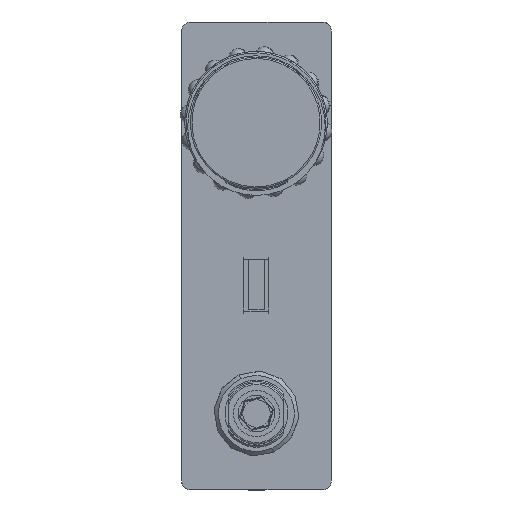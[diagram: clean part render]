
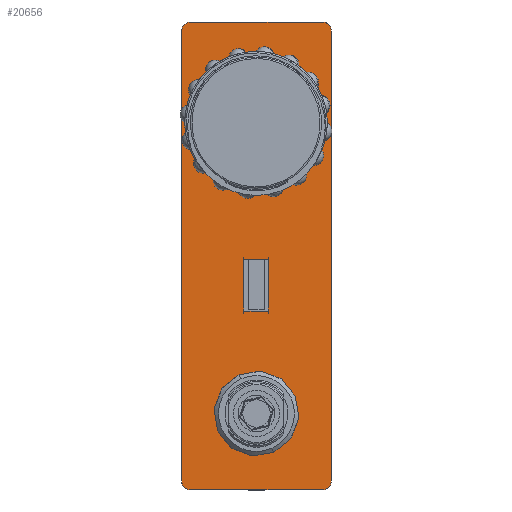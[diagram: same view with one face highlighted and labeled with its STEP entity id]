
A CAD part, front view. The second image highlights one B-rep face of the part: STEP entity #20656.
In plain terms, the highlighted planar face has unit normal (0, -1, 0).
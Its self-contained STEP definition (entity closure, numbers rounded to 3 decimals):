
#8502 = CARTESIAN_POINT ( 'NONE',  ( -42.3, -2., -22.5 ) ) ;
#8616 = CARTESIAN_POINT ( 'NONE',  ( -42.3, -2., 22.5 ) ) ;
#8617 = DIRECTION ( 'NONE',  ( 0., 0., -1. ) ) ;
#8618 = DIRECTION ( 'NONE',  ( 0., -1., 0. ) ) ;
#8619 = CARTESIAN_POINT ( 'NONE',  ( -42.3, -2., 0. ) ) ;
#8620 = AXIS2_PLACEMENT_3D ( 'NONE', #8619, #8618, #8617 ) ;
#8621 = CIRCLE ( 'NONE', #8620, 22.5 ) ;
#8746 = CARTESIAN_POINT ( 'NONE',  ( 51.5, -2., 11. ) ) ;
#8747 = DIRECTION ( 'NONE',  ( 0., 0., -1. ) ) ;
#8748 = DIRECTION ( 'NONE',  ( 0., -1., 0. ) ) ;
#8749 = CARTESIAN_POINT ( 'NONE',  ( 51.5, -2., 0. ) ) ;
#8750 = AXIS2_PLACEMENT_3D ( 'NONE', #8749, #8748, #8747 ) ;
#8751 = CIRCLE ( 'NONE', #8750, 11. ) ;
#8752 = CARTESIAN_POINT ( 'NONE',  ( 51.5, -2., -11. ) ) ;
#8841 = DIRECTION ( 'NONE',  ( 0., 0., -1. ) ) ;
#8842 = DIRECTION ( 'NONE',  ( 0., -1., 0. ) ) ;
#8843 = AXIS2_PLACEMENT_3D ( 'NONE', #8849, #8842, #8841 ) ;
#8844 = CIRCLE ( 'NONE', #8843, 11. ) ;
#8849 = CARTESIAN_POINT ( 'NONE',  ( 51.5, -2., 0. ) ) ;
#9044 = CARTESIAN_POINT ( 'NONE',  ( 17.5, -2., 2.5 ) ) ;
#9045 = CARTESIAN_POINT ( 'NONE',  ( 17.5, -2., -2.5 ) ) ;
#9046 = DIRECTION ( 'NONE',  ( 0., 0., 1. ) ) ;
#9047 = VECTOR ( 'NONE', #9046, 1000. ) ;
#9048 = CARTESIAN_POINT ( 'NONE',  ( 17.5, -2., -21.5 ) ) ;
#9049 = LINE ( 'NONE', #9048, #9047 ) ;
#9050 = DIRECTION ( 'NONE',  ( 0., 0., -1. ) ) ;
#9051 = DIRECTION ( 'NONE',  ( 0., -1., 0. ) ) ;
#9052 = AXIS2_PLACEMENT_3D ( 'NONE', #9053, #9051, #9050 ) ;
#9053 = CARTESIAN_POINT ( 'NONE',  ( -73.5, -2., -21.5 ) ) ;
#9054 = PLANE ( 'NONE',  #9052 ) ;
#9055 = FACE_BOUND ( 'NONE', #20697, .T. ) ;
#9056 = FACE_OUTER_BOUND ( 'NONE', #20729, .T. ) ;
#9057 = FACE_BOUND ( 'NONE', #20726, .T. ) ;
#9058 = FACE_BOUND ( 'NONE', #20657, .T. ) ;
#9132 = DIRECTION ( 'NONE',  ( 1., 0., 0. ) ) ;
#9133 = VECTOR ( 'NONE', #9132, 1000. ) ;
#9134 = CARTESIAN_POINT ( 'NONE',  ( -73.5, -2., -24.5 ) ) ;
#9135 = LINE ( 'NONE', #9134, #9133 ) ;
#9140 = CARTESIAN_POINT ( 'NONE',  ( -73.5, -2., -24.5 ) ) ;
#9143 = DIRECTION ( 'NONE',  ( 0., 0., -1. ) ) ;
#9144 = DIRECTION ( 'NONE',  ( 0., -1., 0. ) ) ;
#9145 = CARTESIAN_POINT ( 'NONE',  ( -42.3, -2., 0. ) ) ;
#9146 = AXIS2_PLACEMENT_3D ( 'NONE', #9145, #9144, #9143 ) ;
#9147 = CIRCLE ( 'NONE', #9146, 22.5 ) ;
#9172 = CARTESIAN_POINT ( 'NONE',  ( 1., -2., 2.5 ) ) ;
#9173 = DIRECTION ( 'NONE',  ( 0., 0., -1. ) ) ;
#9174 = VECTOR ( 'NONE', #9173, 1000. ) ;
#9175 = CARTESIAN_POINT ( 'NONE',  ( 1., -2., -21.5 ) ) ;
#9176 = LINE ( 'NONE', #9175, #9174 ) ;
#9177 = CARTESIAN_POINT ( 'NONE',  ( 1., -2., -2.5 ) ) ;
#9178 = DIRECTION ( 'NONE',  ( 1., 0., 0. ) ) ;
#9179 = VECTOR ( 'NONE', #9178, 1000. ) ;
#9180 = CARTESIAN_POINT ( 'NONE',  ( -73.5, -2., -2.5 ) ) ;
#9181 = LINE ( 'NONE', #9180, #9179 ) ;
#9182 = CARTESIAN_POINT ( 'NONE',  ( -73.5, -2., 24.5 ) ) ;
#9183 = CARTESIAN_POINT ( 'NONE',  ( 73.5, -2., 24.5 ) ) ;
#9184 = DIRECTION ( 'NONE',  ( 0., 0., -1. ) ) ;
#9185 = DIRECTION ( 'NONE',  ( 0., -1., 0. ) ) ;
#9186 = CARTESIAN_POINT ( 'NONE',  ( 73.5, -2., 21.5 ) ) ;
#9187 = AXIS2_PLACEMENT_3D ( 'NONE', #9186, #9185, #9184 ) ;
#9188 = CIRCLE ( 'NONE', #9187, 3. ) ;
#9189 = CARTESIAN_POINT ( 'NONE',  ( 76.5, -2., 21.5 ) ) ;
#9190 = DIRECTION ( 'NONE',  ( 0., 0., 1. ) ) ;
#9191 = VECTOR ( 'NONE', #9190, 1000. ) ;
#9192 = CARTESIAN_POINT ( 'NONE',  ( 76.5, -2., -21.5 ) ) ;
#9193 = LINE ( 'NONE', #9192, #9191 ) ;
#9194 = CARTESIAN_POINT ( 'NONE',  ( 76.5, -2., -21.5 ) ) ;
#9195 = DIRECTION ( 'NONE',  ( 0., 0., -1. ) ) ;
#9196 = DIRECTION ( 'NONE',  ( 0., -1., 0. ) ) ;
#9197 = CARTESIAN_POINT ( 'NONE',  ( 73.5, -2., -21.5 ) ) ;
#9198 = AXIS2_PLACEMENT_3D ( 'NONE', #9197, #9196, #9195 ) ;
#9199 = CIRCLE ( 'NONE', #9198, 3. ) ;
#9200 = CARTESIAN_POINT ( 'NONE',  ( 73.5, -2., -24.5 ) ) ;
#9213 = CARTESIAN_POINT ( 'NONE',  ( -76.5, -2., -21.5 ) ) ;
#9214 = DIRECTION ( 'NONE',  ( 0., 0., -1. ) ) ;
#9215 = DIRECTION ( 'NONE',  ( 0., -1., 0. ) ) ;
#9216 = CARTESIAN_POINT ( 'NONE',  ( -73.5, -2., -21.5 ) ) ;
#9217 = AXIS2_PLACEMENT_3D ( 'NONE', #9216, #9215, #9214 ) ;
#9218 = CIRCLE ( 'NONE', #9217, 3. ) ;
#9219 = DIRECTION ( 'NONE',  ( -1., 0., 0. ) ) ;
#9220 = VECTOR ( 'NONE', #9219, 1000. ) ;
#9221 = CARTESIAN_POINT ( 'NONE',  ( -73.5, -2., 2.5 ) ) ;
#9222 = LINE ( 'NONE', #9221, #9220 ) ;
#9370 = DIRECTION ( 'NONE',  ( 0., 0., -1. ) ) ;
#9371 = VECTOR ( 'NONE', #9370, 1000. ) ;
#9372 = CARTESIAN_POINT ( 'NONE',  ( -76.5, -2., 21.5 ) ) ;
#9373 = LINE ( 'NONE', #9372, #9371 ) ;
#9374 = CARTESIAN_POINT ( 'NONE',  ( -76.5, -2., 21.5 ) ) ;
#9375 = DIRECTION ( 'NONE',  ( 0., 0., -1. ) ) ;
#9376 = DIRECTION ( 'NONE',  ( 0., -1., 0. ) ) ;
#9377 = CARTESIAN_POINT ( 'NONE',  ( -73.5, -2., 21.5 ) ) ;
#9378 = AXIS2_PLACEMENT_3D ( 'NONE', #9377, #9376, #9375 ) ;
#9379 = CIRCLE ( 'NONE', #9378, 3. ) ;
#9380 = DIRECTION ( 'NONE',  ( -1., 0., 0. ) ) ;
#9381 = VECTOR ( 'NONE', #9380, 1000. ) ;
#9382 = CARTESIAN_POINT ( 'NONE',  ( 0., -2., 24.5 ) ) ;
#9383 = LINE ( 'NONE', #9382, #9381 ) ;
#20415 = VERTEX_POINT ( 'NONE', #8502 ) ;
#20475 = EDGE_CURVE ( 'NONE', #20415, #20476, #8621, .T. ) ;
#20476 = VERTEX_POINT ( 'NONE', #8616 ) ;
#20522 = VERTEX_POINT ( 'NONE', #8752 ) ;
#20524 = EDGE_CURVE ( 'NONE', #20522, #20525, #8751, .T. ) ;
#20525 = VERTEX_POINT ( 'NONE', #8746 ) ;
#20563 = EDGE_CURVE ( 'NONE', #20525, #20522, #8844, .T. ) ;
#20656 = ADVANCED_FACE ( 'NONE', ( #9058, #9057, #9056, #9055 ), #9054, .T. ) ;
#20657 = EDGE_LOOP ( 'NONE', ( #20658, #20718, #20721, #20724 ) ) ;
#20658 = ORIENTED_EDGE ( 'NONE', *, *, #20659, .F. ) ;
#20659 = EDGE_CURVE ( 'NONE', #20660, #20661, #9049, .T. ) ;
#20660 = VERTEX_POINT ( 'NONE', #9045 ) ;
#20661 = VERTEX_POINT ( 'NONE', #9044 ) ;
#20697 = EDGE_LOOP ( 'NONE', ( #20698, #20700 ) ) ;
#20698 = ORIENTED_EDGE ( 'NONE', *, *, #20699, .F. ) ;
#20699 = EDGE_CURVE ( 'NONE', #20476, #20415, #9147, .T. ) ;
#20700 = ORIENTED_EDGE ( 'NONE', *, *, #20475, .F. ) ;
#20704 = VERTEX_POINT ( 'NONE', #9140 ) ;
#20705 = ORIENTED_EDGE ( 'NONE', *, *, #20706, .T. ) ;
#20706 = EDGE_CURVE ( 'NONE', #20704, #20707, #9135, .T. ) ;
#20707 = VERTEX_POINT ( 'NONE', #9200 ) ;
#20708 = ORIENTED_EDGE ( 'NONE', *, *, #20709, .T. ) ;
#20709 = EDGE_CURVE ( 'NONE', #20707, #20710, #9199, .T. ) ;
#20710 = VERTEX_POINT ( 'NONE', #9194 ) ;
#20711 = ORIENTED_EDGE ( 'NONE', *, *, #20712, .T. ) ;
#20712 = EDGE_CURVE ( 'NONE', #20710, #20713, #9193, .T. ) ;
#20713 = VERTEX_POINT ( 'NONE', #9189 ) ;
#20714 = ORIENTED_EDGE ( 'NONE', *, *, #20715, .T. ) ;
#20715 = EDGE_CURVE ( 'NONE', #20713, #20716, #9188, .T. ) ;
#20716 = VERTEX_POINT ( 'NONE', #9183 ) ;
#20717 = VERTEX_POINT ( 'NONE', #9182 ) ;
#20718 = ORIENTED_EDGE ( 'NONE', *, *, #20719, .F. ) ;
#20719 = EDGE_CURVE ( 'NONE', #20720, #20660, #9181, .T. ) ;
#20720 = VERTEX_POINT ( 'NONE', #9177 ) ;
#20721 = ORIENTED_EDGE ( 'NONE', *, *, #20722, .F. ) ;
#20722 = EDGE_CURVE ( 'NONE', #20723, #20720, #9176, .T. ) ;
#20723 = VERTEX_POINT ( 'NONE', #9172 ) ;
#20724 = ORIENTED_EDGE ( 'NONE', *, *, #20725, .F. ) ;
#20725 = EDGE_CURVE ( 'NONE', #20661, #20723, #9222, .T. ) ;
#20726 = EDGE_LOOP ( 'NONE', ( #20727, #20728 ) ) ;
#20727 = ORIENTED_EDGE ( 'NONE', *, *, #20563, .F. ) ;
#20728 = ORIENTED_EDGE ( 'NONE', *, *, #20524, .F. ) ;
#20729 = EDGE_LOOP ( 'NONE', ( #20730, #20705, #20708, #20711, #20714, #20776, #20778, #20781 ) ) ;
#20730 = ORIENTED_EDGE ( 'NONE', *, *, #20731, .T. ) ;
#20731 = EDGE_CURVE ( 'NONE', #20732, #20704, #9218, .T. ) ;
#20732 = VERTEX_POINT ( 'NONE', #9213 ) ;
#20776 = ORIENTED_EDGE ( 'NONE', *, *, #20777, .T. ) ;
#20777 = EDGE_CURVE ( 'NONE', #20716, #20717, #9383, .T. ) ;
#20778 = ORIENTED_EDGE ( 'NONE', *, *, #20779, .T. ) ;
#20779 = EDGE_CURVE ( 'NONE', #20717, #20780, #9379, .T. ) ;
#20780 = VERTEX_POINT ( 'NONE', #9374 ) ;
#20781 = ORIENTED_EDGE ( 'NONE', *, *, #20782, .T. ) ;
#20782 = EDGE_CURVE ( 'NONE', #20780, #20732, #9373, .T. ) ;
